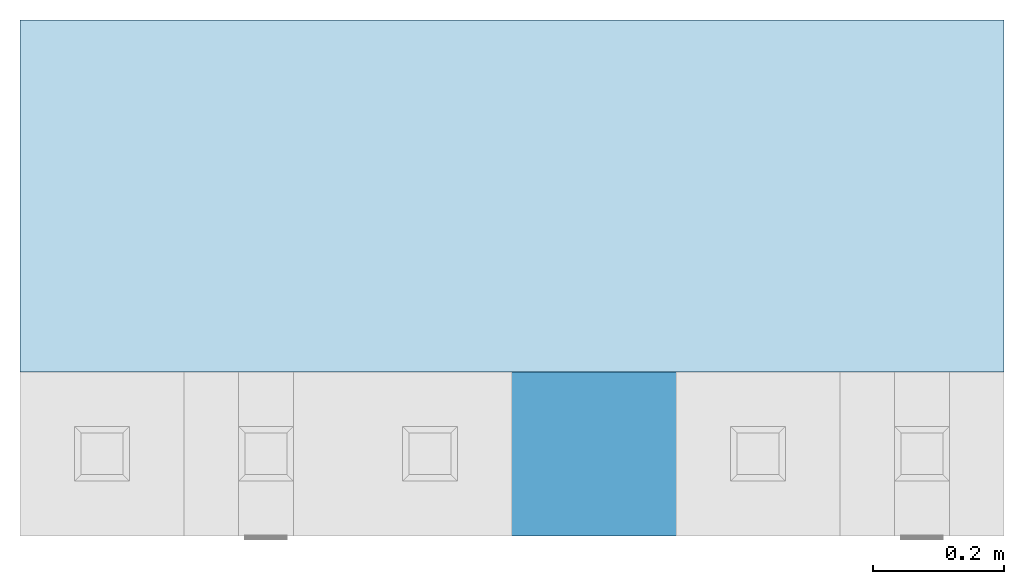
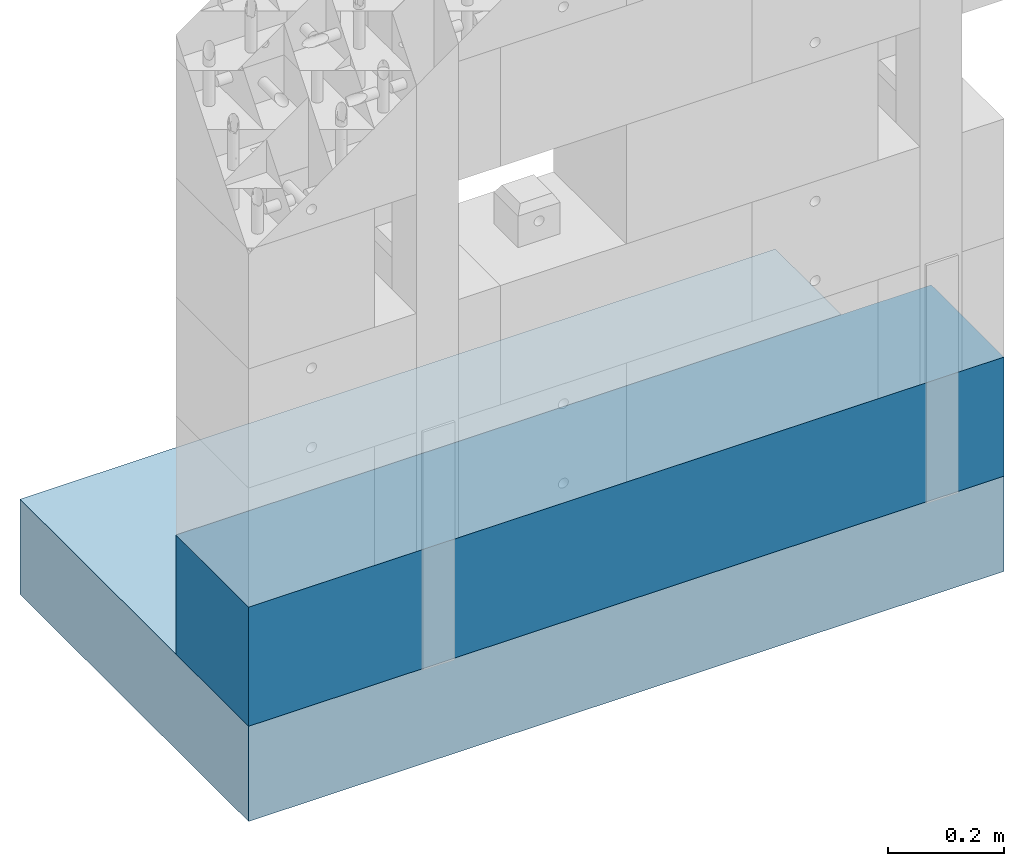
# One storey, part 1 of 2: 1 slab, 1 wall.
"""IFC4 building model written with IfcOpenShell, lengths in centimetres."""

from ifc_helpers import new_model, entity, si_unit, converted_unit, direction, frame, origin, place, context, subcontext, project, spatial, indexed_curve, outline, extrude, material, type_object, element, save


model = new_model("IFC4")

# Units and contexts
model_context = context("Model", 3, precision=0.001, world=origin(), true_north=direction((0.0, 1.0)))
body_context = subcontext(model_context, "Body", "Model", "MODEL_VIEW")
ifc_project = project(units=[si_unit("LENGTHUNIT", "METRE", prefix="CENTI"), si_unit("AREAUNIT", "SQUARE_METRE"), si_unit("VOLUMEUNIT", "CUBIC_METRE"), converted_unit("PLANEANGLEUNIT", "DEGREE", entity("IfcPlaneAngleMeasure", 0.017453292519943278), si_unit("PLANEANGLEUNIT", "RADIAN"), dimensions=[0, 0, 0, 0, 0, 0, 0])], contexts=[model_context])

# Site, building, storey
site_placement = place(None, origin())
site = spatial("IfcSite", under=ifc_project, at=site_placement, Name="Default", CompositionType="ELEMENT")
building_placement = place(site_placement, origin())
building = spatial("IfcBuilding", under=site, at=building_placement, CompositionType="ELEMENT")
storey_placement = place(building_placement, frame((0.0, 0.0, -12.0)))
storey = spatial("IfcBuildingStorey", under=building, at=storey_placement, Name="L00__ABOVE Slab", CompositionType="ELEMENT", Elevation=-12.000000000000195)

# Slab
ifc_material = material(Name="_STRUCTURE__Reinforced Concrete")
slab_type = type_object("IfcSlabType", Name="Floors : Floor : flr__STRUCTURE__Reinforced Concrete 20cm 2", PredefinedType="FLOOR", material=ifc_material)
slab_placement = place(storey_placement, origin())
element("IfcSlab", 1, at=slab_placement, inside=storey, type_object=slab_type, material=ifc_material, Name="Floors : Floor : flr__STRUCTURE__Reinforced Concrete 20cm 2", PredefinedType="FLOOR", context=body_context, shape_type="SweptSolid", body=[
    extrude(outline(indexed_curve([(-39.31325247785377, -74.99999999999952), (39.31325247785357, -74.99999999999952), (39.31325247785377, 74.99999999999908), (-39.31325247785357, 74.9999999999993), (-39.31325247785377, -74.99999999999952)], self_intersect=False)), frame((1065.9494566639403, 1244.8517922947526, -8.499999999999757), z_axis=(0.0, 0.0, -1.0), x_axis=(0.0, 1.0, 0.0)), (0.0, 0.0, 1.0), 20.000000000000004),
])

# Wall
wall_type = type_object("IfcWallType", Name="Walls : Basic Wall : wll__STRUCTURE__Reinforced Concrete 25cm__TriqBriq, TW.10", PredefinedType="STANDARD")
wall_placement = place(storey_placement, frame((990.9494566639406, 1218.038539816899, -8.499999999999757)))
element("IfcWall", 2, at=wall_placement, inside=storey, type_object=wall_type, material=ifc_material, Name="Walls : Basic Wall : wll__STRUCTURE__Reinforced Concrete 25cm__TriqBriq, TW.10", PredefinedType="NOTDEFINED", context=body_context, shape_type="SweptSolid", body=[
    extrude(outline(indexed_curve([(149.99999999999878, 12.500000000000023), (-2.2204460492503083e-14, 12.499999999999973), (2.2204460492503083e-14, -12.499999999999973), (149.99999999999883, -12.499999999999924), (149.99999999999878, 12.500000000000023)], self_intersect=False)), origin(), (0.0, 0.0, 1.0), 25.000000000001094),
])

save(model, "model.ifc")
